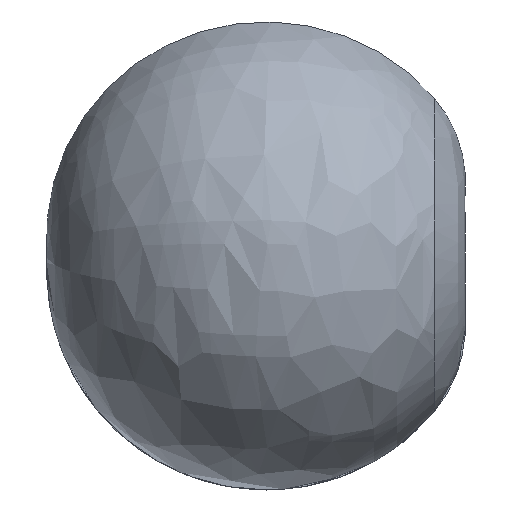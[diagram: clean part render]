
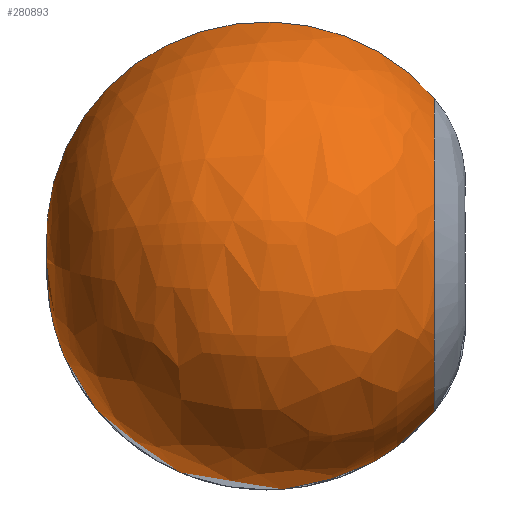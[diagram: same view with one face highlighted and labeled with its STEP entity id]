
A CAD part, left-side view. The second image highlights one B-rep face of the part: STEP entity #280893.
In plain terms, the highlighted free-form (B-spline) face has degree [3, 3] with [7, 4] control points.
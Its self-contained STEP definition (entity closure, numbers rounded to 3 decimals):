
#280743=CARTESIAN_POINT('',(-33.518,537.,145.181));
#280744=DIRECTION('',(-0.974,0.,-0.225));
#280745=DIRECTION('',(-0.145,-0.766,0.626));
#280746=AXIS2_PLACEMENT_3D('',#280743,#280744,#280745);
#280772=CARTESIAN_POINT('',(0.,-882.046,0.));
#280773=DIRECTION('',(0.,-1.,0.));
#280774=DIRECTION('',(-0.225,0.,0.974));
#280775=AXIS2_PLACEMENT_3D('',#280772,#280773,#280774);
#280792=CARTESIAN_POINT('',(33.518,537.,145.181));
#280793=DIRECTION('',(-0.974,0.,0.225));
#280794=DIRECTION('',(0.145,-0.766,0.626));
#280795=AXIS2_PLACEMENT_3D('',#280792,#280793,#280794);
#280817=CARTESIAN_POINT('',(-301.372,-882.046,
1305.384));
#280818=CARTESIAN_POINT('',(0.,2383.431,
0.));
#280819=VERTEX_POINT('',#280817);
#280820=VERTEX_POINT('',#280818);
#280829=CARTESIAN_POINT('',(301.372,-882.046,
1305.384));
#280830=VERTEX_POINT('',#280829);
#280857=CARTESIAN_POINT('',(0.,2383.431,
0.));
#280858=CARTESIAN_POINT('',(-250.25,2566.88,
2259.507));
#280859=CARTESIAN_POINT('',(-339.653,435.669,
3066.724));
#280860=CARTESIAN_POINT('',(-139.429,-940.32,
1258.904));
#280861=CARTESIAN_POINT('',(0.,2383.431,
0.));
#280862=CARTESIAN_POINT('',(-4314.332,2566.88,
1809.392));
#280863=CARTESIAN_POINT('',(-5855.643,435.669,
2455.804));
#280864=CARTESIAN_POINT('',(-2403.768,-940.32,
1008.119));
#280865=CARTESIAN_POINT('',(0.,2383.431,
0.));
#280866=CARTESIAN_POINT('',(-4088.932,2566.88,
-2273.323));
#280867=CARTESIAN_POINT('',(-5549.718,435.669,
-3085.476));
#280868=CARTESIAN_POINT('',(-2278.184,-940.32,
-1266.602));
#280869=CARTESIAN_POINT('',(0.,2383.431,0.));
#280870=CARTESIAN_POINT('',(0.,2566.88,
-2273.323));
#280871=CARTESIAN_POINT('',(0.,435.669,
-3085.476));
#280872=CARTESIAN_POINT('',(0.,-940.32,
-1266.602));
#280873=CARTESIAN_POINT('',(0.,2383.431,
0.));
#280874=CARTESIAN_POINT('',(4088.932,2566.88,
-2273.323));
#280875=CARTESIAN_POINT('',(5549.718,435.669,
-3085.476));
#280876=CARTESIAN_POINT('',(2278.184,-940.32,
-1266.602));
#280877=CARTESIAN_POINT('',(0.,2383.431,
0.));
#280878=CARTESIAN_POINT('',(4314.332,2566.88,
1809.392));
#280879=CARTESIAN_POINT('',(5855.643,435.669,
2455.804));
#280880=CARTESIAN_POINT('',(2403.768,-940.32,
1008.119));
#280881=CARTESIAN_POINT('',(0.,2383.431,
0.));
#280882=CARTESIAN_POINT('',(250.25,2566.88,
2259.507));
#280883=CARTESIAN_POINT('',(339.653,435.669,
3066.724));
#280884=CARTESIAN_POINT('',(139.429,-940.32,
1258.904));
#280885=(BOUNDED_SURFACE()B_SPLINE_SURFACE(3,3,((#280857,#280858,#280859,
#280860),(#280861,#280862,#280863,#280864),(#280865,#280866,#280867,#280868),(
#280869,#280870,#280871,#280872),(#280873,#280874,#280875,#280876),(#280877,
#280878,#280879,#280880),(#280881,#280882,#280883,#280884)),.UNSPECIFIED.,.F.,
.F.,.F.)B_SPLINE_SURFACE_WITH_KNOTS((4,3,4),(4,4),(0.,1.,2.),(0.,1.),
.UNSPECIFIED.)GEOMETRIC_REPRESENTATION_ITEM()RATIONAL_B_SPLINE_SURFACE(((
2.962,1.54,1.54,2.962),(
1.096,0.57,0.57,1.096),(
1.096,0.57,0.57,1.096),(
2.962,1.54,1.54,2.962),(
1.096,0.57,0.57,1.096),(
1.096,0.57,0.57,1.096),(
2.962,1.54,1.54,2.962)))REPRESENTATION_ITEM('')SURFACE());
#280886=ORIENTED_EDGE('',*,*,#280842,.F.);
#280888=ORIENTED_EDGE('',*,*,#280887,.T.);
#280890=ORIENTED_EDGE('',*,*,#280889,.T.);
#280891=EDGE_LOOP('',(#280886,#280888,#280890));
#280892=FACE_OUTER_BOUND('',#280891,.F.);
#280893=ADVANCED_FACE('',(#280892),#280885,.T.);
#280747=CIRCLE('',#280746,1852.433);
#280776=CIRCLE('',#280775,1339.721);
#280796=CIRCLE('',#280795,1852.433);
#280842=EDGE_CURVE('',#280819,#280820,#280747,.T.);
#280887=EDGE_CURVE('',#280819,#280830,#280776,.T.);
#280889=EDGE_CURVE('',#280830,#280820,#280796,.T.);
